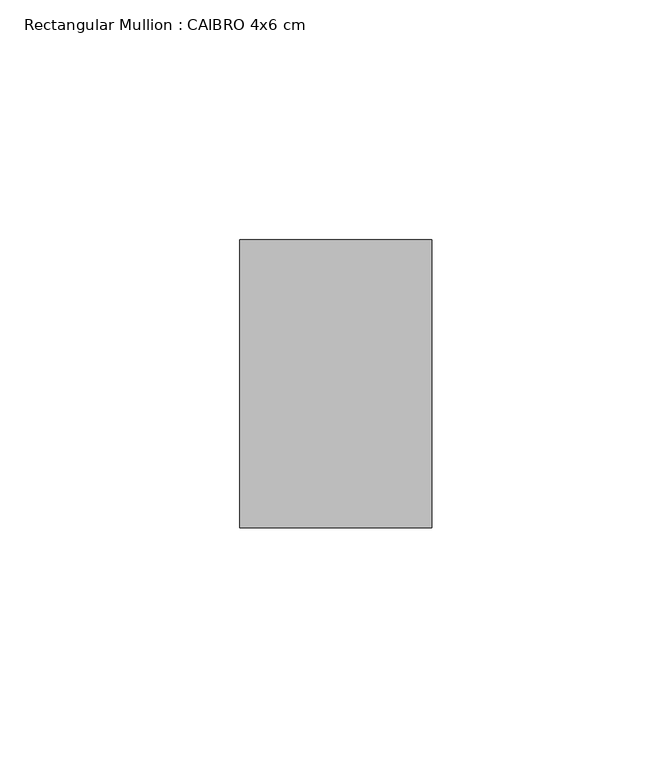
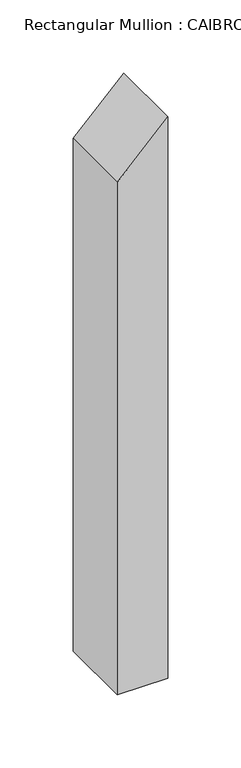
"""IFC4 building model written with IfcOpenShell, lengths in millimetres: member geometry, Rectangular Mullion : CAIBRO 4x6 cm."""

from ifc_helpers import new_model, si_unit, frame, origin, place, context, project, spatial, polyline, outline, extrude, source, transform, mapped, element, save


def rectangular_mullion_caibro_4x6_cm_888e0c1b(model_context):
    return source(origin(), model_context, "Body", "SweptSolid", [
        extrude(outline(polyline([(-36.6621022, 20.0), (-77.109599, -20.0), (-504.7942059, -20.0), (-504.7942059, 20.0), (-36.6621022, 20.0)])), frame((0.0, 0.0, 0.0), z_axis=(0.0, 1.0, 0.0), x_axis=(0.0, 0.0, 1.0)), (0.0, 0.0, 1.0), 60.0),
    ])


if __name__ == "__main__":
    model = new_model("IFC4")
    model_context = context("Model", 3, world=origin())
    ifc_project = project(units=[si_unit("LENGTHUNIT", "METRE", prefix="MILLI")], contexts=[model_context])
    site = spatial("IfcSite", under=ifc_project)
    building = spatial("IfcBuilding", under=site)
    placement = place(None, origin())
    rectangular_mullion_caibro_4x6_cm_shape = rectangular_mullion_caibro_4x6_cm_888e0c1b(model_context)
    element("IfcMember", 1, ObjectType="Rectangular Mullion : CAIBRO 4x6 cm", at=placement, inside=building, context=model_context, shape_type="MappedRepresentation", body=[
        mapped(rectangular_mullion_caibro_4x6_cm_shape, transform((0.0, 0.0, 0.0), x_axis=(1.0, 0.0, 0.0), y_axis=(0.0, 1.0, 0.0), z_axis=(0.0, 0.0, 1.0))),
    ])
    save(model, "model.ifc")
